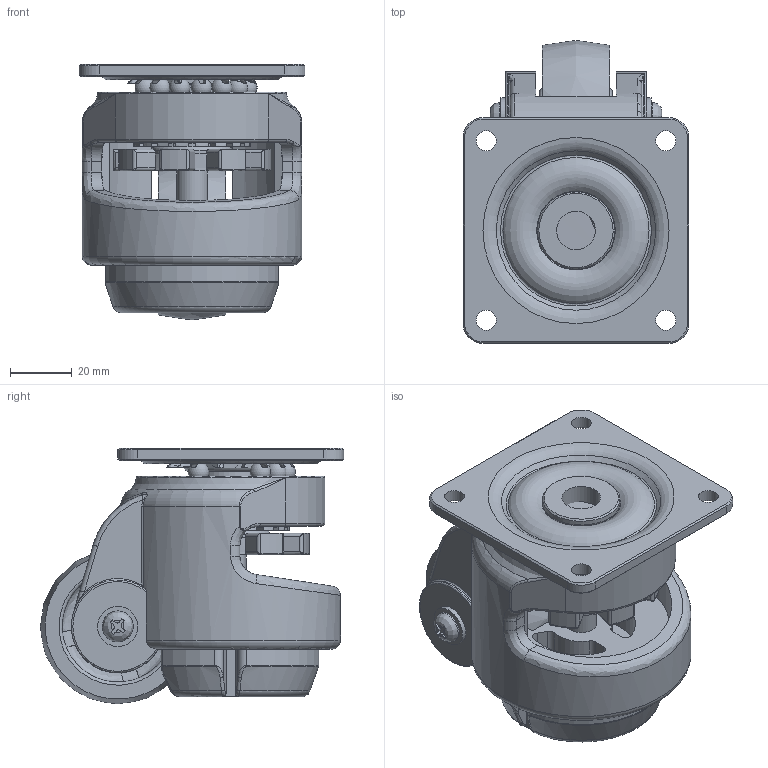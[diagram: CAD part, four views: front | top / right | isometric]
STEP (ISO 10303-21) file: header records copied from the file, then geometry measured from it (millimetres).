
FILE_DESCRIPTION((''),'2;1');
FILE_NAME('E:\UPS\Accessories\wheels\AC-300F download\AC-300F.stp','2012-07-10T10:37:25',('h029'),(''),'Autodesk Inventor 11','Autodesk Inventor 11','');
FILE_SCHEMA(('AUTOMOTIVE_DESIGN { 1 0 10303 214 1 1 1 1 }'));
Length unit declared in the file: millimetre
Products named in the file (3): AC-300F; AC-300F_1; AC-300F_2
Assembly tree (2 placements, depth 2):
  AC-300F
    AC-300F_1
    AC-300F_2
Bounding box: 73 x 98 x 82.6 mm (x, y, z)
Volume: 243268.2 mm3; surface area: 78251.4 mm2
Topology: 5 solids, 7 shells, 705 faces, 1861 edges, 1160 vertices
Faces by surface type: plane 276, cylinder 206, bspline 122, torus 44, sphere 32, cone 25
Full cylindrical faces by diameter (mm): 2.05 x1, 2.5 x1, 3 x1, 5 x1, 6.5 x4, 6.647 x1, 8 x2, 8.5 x1, 10 x5, 10.2 x1, 10.5 x2, 12.5 x1, 13 x2, 18.917 x1, 19 x2, 19.5 x1, 25 x3, 25.5 x1, 36 x2, 38 x1, 41 x1
Entity records: 29387 total; most frequent: CARTESIAN_POINT 13149, DIRECTION 3349, ORIENTED_EDGE 3326, EDGE_CURVE 1663, AXIS2_PLACEMENT_3D 1325, VERTEX_POINT 1085, EDGE_LOOP 848, FACE_OUTER_BOUND 702
